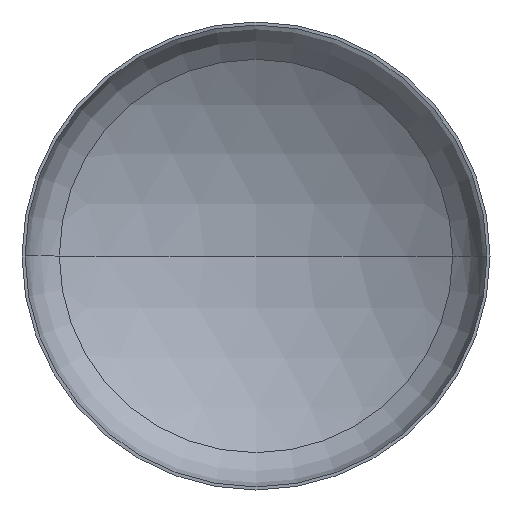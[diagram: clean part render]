
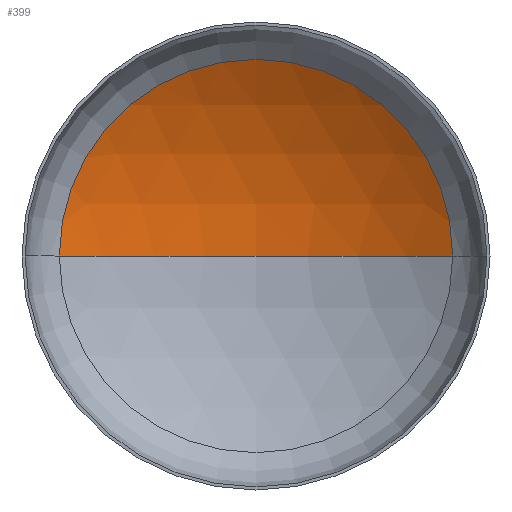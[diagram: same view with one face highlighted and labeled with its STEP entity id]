
A CAD part, front view. The second image highlights one B-rep face of the part: STEP entity #399.
In plain terms, the highlighted spherical face has radius 2880 mm.
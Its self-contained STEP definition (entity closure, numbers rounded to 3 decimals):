
#6 = DIRECTION ( 'NONE',  ( -1., 0., 0. ) ) ;
#25 = EDGE_LOOP ( 'NONE', ( #126, #73, #52 ) ) ;
#33 = AXIS2_PLACEMENT_3D ( 'NONE', #224, #359, #379 ) ;
#34 = CARTESIAN_POINT ( 'NONE',  ( 0., 976.419, 0. ) ) ;
#40 = AXIS2_PLACEMENT_3D ( 'NONE', #119, #310, #6 ) ;
#42 = AXIS2_PLACEMENT_3D ( 'NONE', #215, #198, #199 ) ;
#52 = ORIENTED_EDGE ( 'NONE', *, *, #97, .T. ) ;
#73 = ORIENTED_EDGE ( 'NONE', *, *, #105, .T. ) ;
#97 = EDGE_CURVE ( 'NONE', #185, #153, #281, .T. ) ;
#105 = EDGE_CURVE ( 'NONE', #246, #185, #222, .T. ) ;
#114 = EDGE_CURVE ( 'NONE', #246, #153, #278, .T. ) ;
#119 = CARTESIAN_POINT ( 'NONE',  ( 0., -1903.581, 0. ) ) ;
#126 = ORIENTED_EDGE ( 'NONE', *, *, #114, .F. ) ;
#132 = FACE_OUTER_BOUND ( 'NONE', #25, .T. ) ;
#153 = VERTEX_POINT ( 'NONE', #210 ) ;
#185 = VERTEX_POINT ( 'NONE', #285 ) ;
#198 = DIRECTION ( 'NONE',  ( 0., -1., 0. ) ) ;
#199 = DIRECTION ( 'NONE',  ( 1., 0., 0. ) ) ;
#205 = CARTESIAN_POINT ( 'NONE',  ( 0., -1903.581, 0. ) ) ;
#210 = CARTESIAN_POINT ( 'NONE',  ( -1512.465, 547.307, 0. ) ) ;
#215 = CARTESIAN_POINT ( 'NONE',  ( 0., 547.307, 0. ) ) ;
#222 = CIRCLE ( 'NONE', #40, 2880. ) ;
#224 = CARTESIAN_POINT ( 'NONE',  ( 0., -1903.581, 0. ) ) ;
#242 = AXIS2_PLACEMENT_3D ( 'NONE', #205, #292, #312 ) ;
#246 = VERTEX_POINT ( 'NONE', #34 ) ;
#278 = CIRCLE ( 'NONE', #33, 2880. ) ;
#281 = CIRCLE ( 'NONE', #42, 1512.465 ) ;
#285 = CARTESIAN_POINT ( 'NONE',  ( 1512.465, 547.307, 0. ) ) ;
#292 = DIRECTION ( 'NONE',  ( 0., 0., -1. ) ) ;
#310 = DIRECTION ( 'NONE',  ( 0., 0., -1. ) ) ;
#312 = DIRECTION ( 'NONE',  ( -1., 0., 0. ) ) ;
#345 = SPHERICAL_SURFACE ( 'NONE', #242, 2880. ) ;
#359 = DIRECTION ( 'NONE',  ( 0., 0., 1. ) ) ;
#379 = DIRECTION ( 'NONE',  ( 1., 0., 0. ) ) ;
#399 = ADVANCED_FACE ( 'NONE', ( #132 ), #345, .F. ) ;
